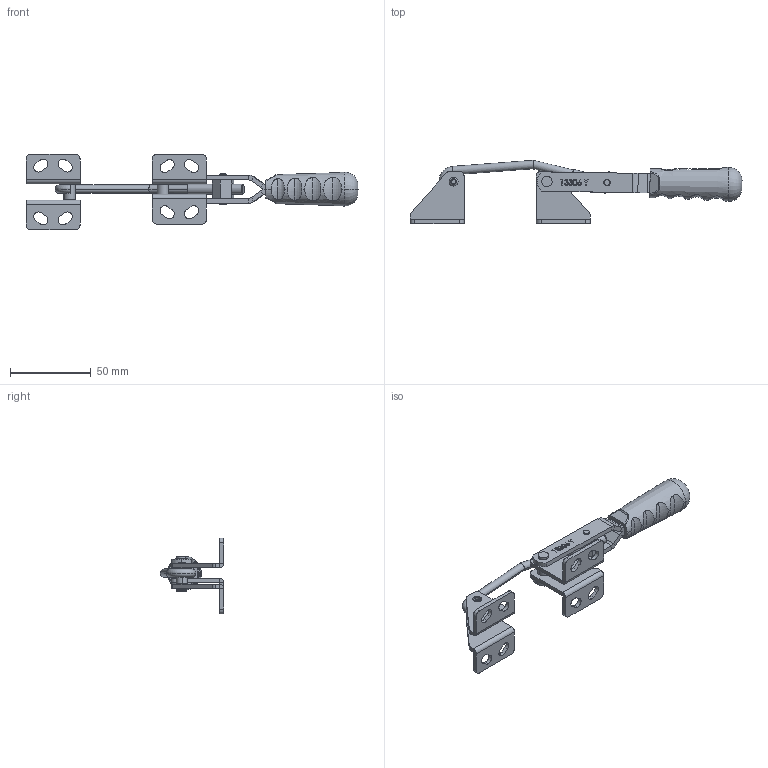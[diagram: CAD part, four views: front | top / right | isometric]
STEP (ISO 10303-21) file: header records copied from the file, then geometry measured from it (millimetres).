
FILE_DESCRIPTION (( 'STEP AP203' ), '1' );
FILE_NAME ('13306_Y.STEP', '2022-12-02T05:41:54', ( '' ), ( '' ), 'SwSTEP 2.0', 'SolidWorks 2023', '' );
FILE_SCHEMA (( 'CONFIG_CONTROL_DESIGN' ));
Length unit declared in the file: millimetre
Products named in the file (13): 1351C_Burc_7x4x6_5_Varsayılan; 1351_Kanca Tutucu_Varsayılan; 13306 _Y_Gövde  yeni Karşılık kancası_Varsayılan; 1351C_Pim_4x21_Varsayılan; 1351C_Burc_7x4x10_Varsayılan; 1351C_Pim_4x15_Varsayılan; Pim_4x17_5_Varsayılan; 1351C_Kanca_Varsayılan; 1351_Hareket Kolu_Varsayılan; C55_T(YENİ_TUTAMAK)_Varsayılan; 13306 _Y_Gövde  yeni_Varsayılan; 13306_Y
Assembly tree (12 placements, depth 2):
  13306_Y
    13306 _Y_Gövde  yeni_Varsayılan
    1351_Hareket Kolu_Varsayılan
    1351_Hareket Kolu_Varsayılan
    1351C_Burc_7x4x6_5_Varsayılan
    1351C_Pim_4x21_Varsayılan
    1351_Kanca Tutucu_Varsayılan
    1351C_Kanca_Varsayılan
    13306 _Y_Gövde  yeni Karşılık kancası_Varsayılan
    1351C_Pim_4x15_Varsayılan
    Pim_4x17_5_Varsayılan
    1351C_Burc_7x4x10_Varsayılan
    C55_T(YENİ_TUTAMAK)_Varsayılan
Bounding box: 205.74 x 39.22 x 47 mm (x, y, z)
Volume: 38240.7 mm3; surface area: 29370.2 mm2
Topology: 14 solids, 14 shells, 753 faces, 1918 edges, 1228 vertices
Faces by surface type: plane 416, cylinder 173, bspline 110, torus 30, cone 24
Entity records: 29919 total; most frequent: CARTESIAN_POINT 10770, ORIENTED_EDGE 3836, DIRECTION 3406, EDGE_CURVE 1918, VERTEX_POINT 1228, VECTOR 1226, LINE 1226, AXIS2_PLACEMENT_3D 1090
